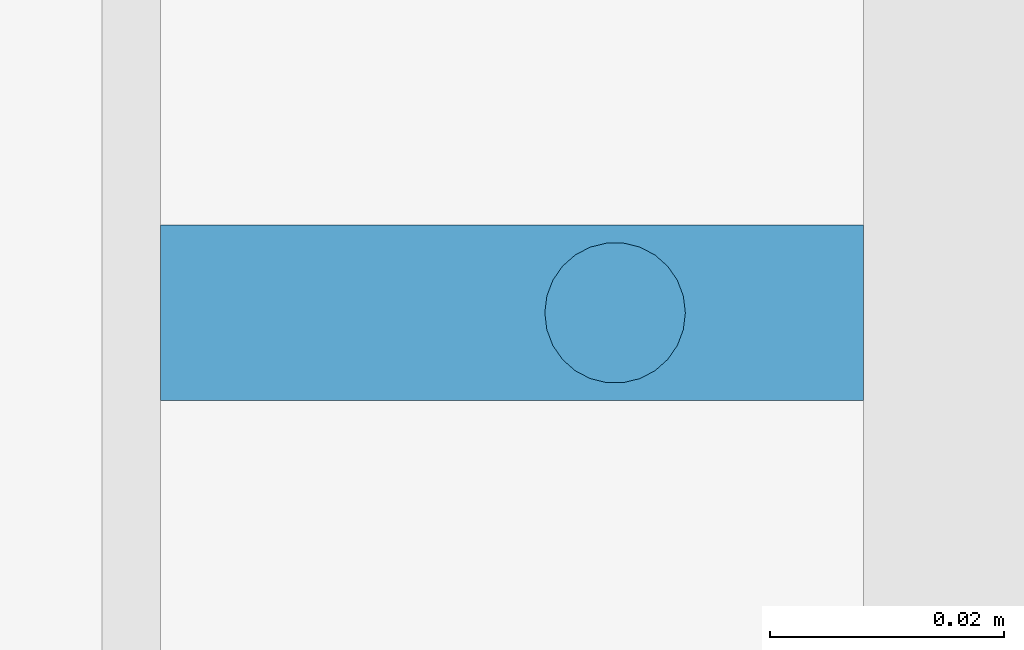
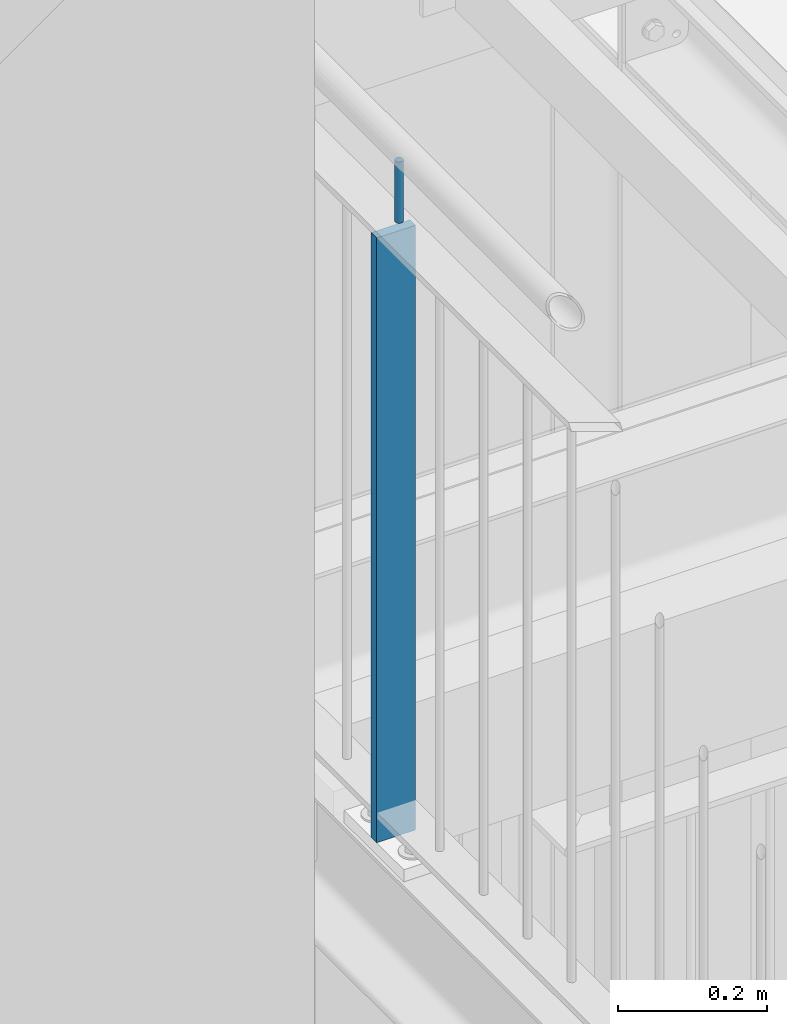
# One storey, part 19 of 831: 2 columns.
"""IFC2X3 building model written with IfcOpenShell, lengths in millimetres."""

from ifc_helpers import new_model, entity, si_unit, converted_unit, frame, origin, origin_with_axes, origin_2d, place, context, project, spatial, rectangle, circle, extrude, clip, halfspace, material, element, save


model = new_model("IFC2X3")

# Units and contexts
model_context = context("Model", 3, precision=1e-09, world=origin_with_axes())
ifc_project = project(units=[si_unit("LENGTHUNIT", "METRE", prefix="MILLI"), si_unit("AREAUNIT", "SQUARE_METRE"), si_unit("VOLUMEUNIT", "CUBIC_METRE"), converted_unit("PLANEANGLEUNIT", "DEGREE", entity("IfcPlaneAngleMeasure", 0.01745329), si_unit("PLANEANGLEUNIT", "RADIAN"), dimensions=[0, 0, 0, 0, 0, 0, 0])], contexts=[model_context])

# Site, building, storey
site_placement = place(None, origin_with_axes())
site = spatial("IfcSite", under=ifc_project, at=site_placement, Name="Site", CompositionType="ELEMENT")
building_placement = place(site_placement, origin_with_axes())
building = spatial("IfcBuilding", under=site, at=building_placement, Name="Struktur 1", CompositionType="ELEMENT")
storey_placement = place(building_placement, origin_with_axes())
storey = spatial("IfcBuildingStorey", under=building, at=storey_placement, Name="Default Storey", CompositionType="ELEMENT", Elevation=0.0)

# Columns
ifc_material = material(Name="S235JR")
column_1_placement = place(None, frame((3271.713402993, 5461.738971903, 13618.723292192), z_axis=(0.0, 0.0, 1.0), x_axis=(0.0, 1.0, 0.0)))
element("IfcColumn", 1, at=column_1_placement, inside=storey, material=ifc_material, Name="Railing_Post_Landing#14", ObjectType="Railing_Post_Landing#14", context=model_context, shape_type="Clipping", body=[
    clip(clip(extrude(rectangle(XDim=15.0, YDim=60.0, at=origin_2d()), origin(), (0.0, 0.0, -1.0), 1070.646584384), halfspace(frame((-5461.738971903, 3271.713402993, -1019.722292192), z_axis=(0.0, 0.0, 1.0), x_axis=(0.0, -1.0, 0.0)), True)), halfspace(frame((-5461.738971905, 3271.713402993, -30.924292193), z_axis=(0.0, 0.0, -1.0), x_axis=(0.0, 1.0, 0.0)), True)),
])
column_2_placement = place(None, frame((3280.513402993, 5461.738971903, 13706.285281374), z_axis=(0.0, 0.0, 1.0), x_axis=(1.0, 0.0, 0.0)))
element("IfcColumn", 2, at=column_2_placement, inside=storey, material=ifc_material, Name="Bar#14", ObjectType="Bar#14", context=model_context, shape_type="Clipping", body=[
    clip(clip(extrude(circle(Radius=6.0, at=origin_2d()), origin(), (0.0, 0.0, -1.0), 116.970562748), halfspace(frame((-3280.513402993, -5461.738971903, -8.486281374), z_axis=(0.0, 0.0, -1.0), x_axis=(-1.0, 0.0, 0.0)), True)), halfspace(frame((-3280.513402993, -5461.738971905, -108.484281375), z_axis=(0.0, 0.0, 1.0), x_axis=(1.0, 0.0, 0.0)), True)),
])

save(model, "model.ifc")
